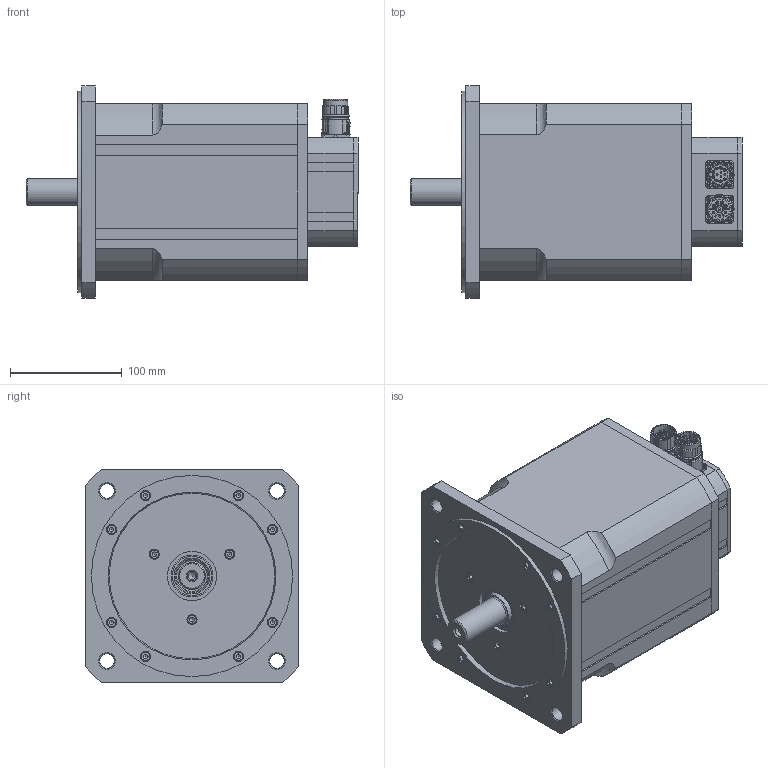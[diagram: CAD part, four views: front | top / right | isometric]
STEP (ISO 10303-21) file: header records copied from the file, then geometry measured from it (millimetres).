
FILE_DESCRIPTION(/* description */ (''),/* implementation_level */ '2;1');
FILE_NAME(/* name */ 'V:\6\N6025 00 B\3D Z\N6025 00 B Z_2400_8P_12P.stp',/* time_stamp */ '2017-06-28T11:57:32+02:00',/* author */ ('simik'),/* organization */ (''),/* preprocessor_version */ 'ST-DEVELOPER v16.13',/* originating_system */ 'Autodesk Inventor 2018',/* authorisation */ '');
FILE_SCHEMA (('AUTOMOTIVE_DESIGN { 1 0 10303 214 3 1 1 }'));
Products named in the file (5): N6025 00 B Z; N6025 00 B Z_front; N6025 00 B Z_2400; 127331; 127344
Assembly tree (4 placements, depth 2):
  N6025 00 B Z
    N6025 00 B Z_front
    N6025 00 B Z_2400
    127331
    127344
Bounding box: 297 x 190 x 190 mm (x, y, z)
Volume: 2018775 mm3; surface area: 417407.3 mm2
Topology: 7 solids, 38 shells, 2175 faces, 5223 edges, 3227 vertices
Faces by surface type: cylinder 862, plane 705, torus 209, cone 186, bspline 164, sphere 49
Full cylindrical faces by diameter (mm): 1 x16, 1.18 x12, 1.3 x4, 2 x4, 2.013 x8, 2.15 x4, 2.208 x8, 2.4 x8, 2.459 x10, 2.5 x8, 2.7 x8, 3 x4, 3.242 x5, 3.3 x4, 3.545 x4, 3.95 x4, 4 x4, 4.134 x16, 4.4 x4, 5 x27, 5.3 x19, 5.8 x1, 6.5 x4, 6.647 x1, 6.8 x1, 8 x4, 8.4 x1, 8.5 x23, 9 x19, 13 x4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
Entity records: 69536 total; most frequent: CARTESIAN_POINT 20280, DIRECTION 10167, ORIENTED_EDGE 9052, EDGE_CURVE 4434, AXIS2_PLACEMENT_3D 4356, VERTEX_POINT 2965, EDGE_LOOP 2903, ADVANCED_FACE 2171
